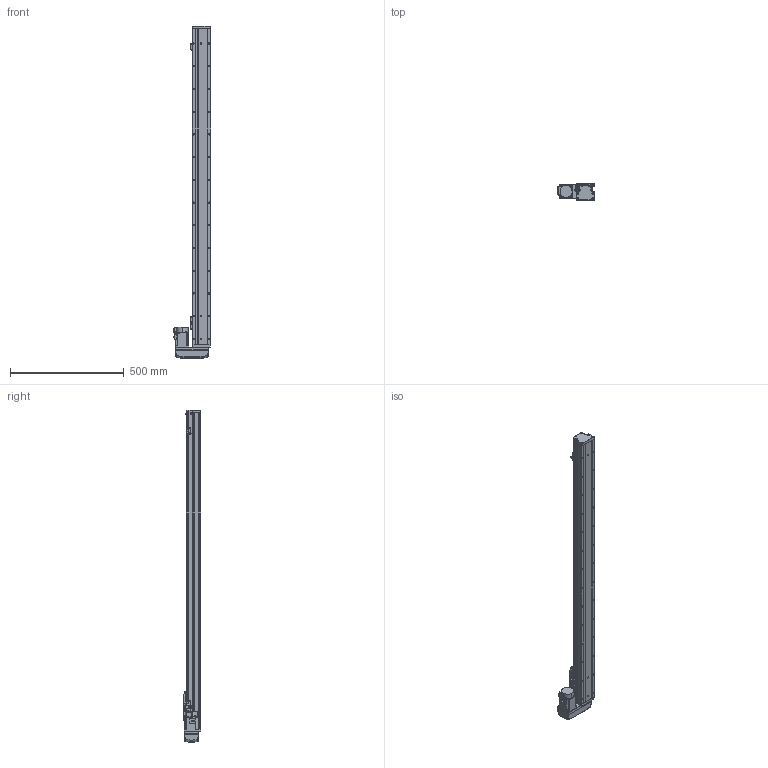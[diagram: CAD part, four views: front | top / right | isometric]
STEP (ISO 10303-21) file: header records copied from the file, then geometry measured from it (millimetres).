
FILE_DESCRIPTION (( 'STEP AP203' ), '1' );
FILE_NAME ('GTH8-1250-BL-M20-C4.step', '2023-08-28T00:55:50', ( '微软用户' ), ( '微软中国' ), 'SwSTEP 2.0', 'SolidWorks 2020', '' );
FILE_SCHEMA (( 'CONFIG_CONTROL_DESIGN' ));
Length unit declared in the file: millimetre
Products named in the file (18): GBT 70.1-M4×16; CTHA86-033_M40B; GTH80-004; GTH80-028; 三菱伺服电机[HG-KN23J-S100]; GTH80-006; GTH50-024; GTH8-1250-BL-M20-C4; GTH80-013; GTH50-023; GBT 70.3-M3℅6; GBT96.1-2002 3×0.8; GTH80-022; BTH-M3X5X6; GTH80-001_1200; GBT 70.1-M3℅6; CTHA86-015-1_CTHA86-015-2; GTH80-003
Assembly tree (57 placements, depth 2):
  GTH8-1250-BL-M20-C4
    GTH80-001_1200
    GTH80-003
    GTH80-004
    GTH80-006
    GTH80-013
    GBT 70.3-M3℅6  x4
    GTH80-022
    GBT 70.1-M3℅6  x14
    GBT 70.1-M4×16  x8
    GTH80-028  x2
    GTH50-024  x3
    GTH50-023  x3
    GBT96.1-2002 3×0.8  x6
    BTH-M3X5X6  x8
    CTHA86-015-1_CTHA86-015-2
    CTHA86-033_M40B
    三菱伺服电机[HG-KN23J-S100]
Bounding box: 164.8 x 78 x 1461 mm (x, y, z)
Volume: 6934890.1 mm3; surface area: 658419.1 mm2
Topology: 59 solids, 59 shells, 2212 faces, 5161 edges, 3173 vertices
Faces by surface type: plane 1151, cylinder 627, cone 260, torus 158, bspline 8, sphere 8
Entity records: 42343 total; most frequent: CARTESIAN_POINT 9299, DIRECTION 6296, ORIENTED_EDGE 6140, EDGE_CURVE 3070, AXIS2_PLACEMENT_3D 2178, VERTEX_POINT 1948, VECTOR 1940, LINE 1940
